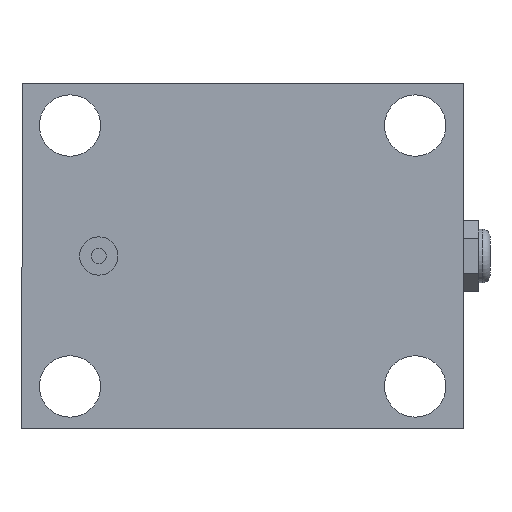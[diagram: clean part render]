
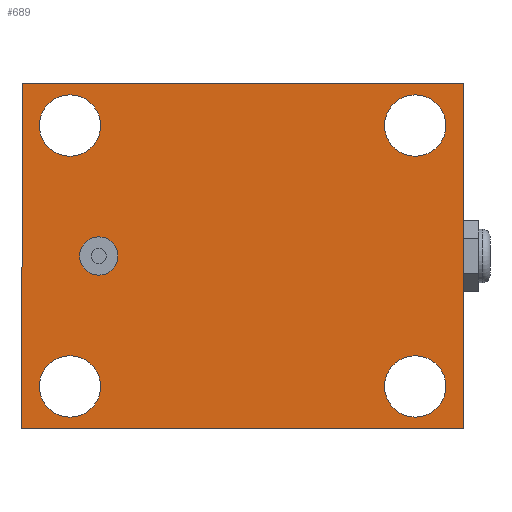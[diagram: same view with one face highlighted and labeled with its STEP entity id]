
A CAD part, front view. The second image highlights one B-rep face of the part: STEP entity #689.
In plain terms, the highlighted planar face has unit normal (0, -1, 0).
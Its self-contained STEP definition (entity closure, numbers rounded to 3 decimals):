
#23 = ORIENTED_EDGE ( 'NONE', *, *, #909, .T. ) ;
#39 = AXIS2_PLACEMENT_3D ( 'NONE', #590, #1163, #596 ) ;
#43 = DIRECTION ( 'NONE',  ( 1., 0., 0. ) ) ;
#44 = LINE ( 'NONE', #623, #1220 ) ;
#54 = EDGE_CURVE ( 'NONE', #730, #512, #561, .T. ) ;
#58 = CIRCLE ( 'NONE', #1169, 5. ) ;
#60 = EDGE_CURVE ( 'NONE', #618, #680, #1393, .T. ) ;
#66 = VERTEX_POINT ( 'NONE', #510 ) ;
#78 = CARTESIAN_POINT ( 'NONE',  ( -45., 0., -42. ) ) ;
#91 = AXIS2_PLACEMENT_3D ( 'NONE', #993, #1013, #667 ) ;
#111 = DIRECTION ( 'NONE',  ( 0., 0., 1. ) ) ;
#115 = EDGE_CURVE ( 'NONE', #922, #723, #918, .T. ) ;
#142 = VERTEX_POINT ( 'NONE', #948 ) ;
#147 = AXIS2_PLACEMENT_3D ( 'NONE', #450, #1024, #111 ) ;
#174 = FACE_OUTER_BOUND ( 'NONE', #756, .T. ) ;
#193 = EDGE_CURVE ( 'NONE', #962, #1290, #1085, .T. ) ;
#243 = EDGE_CURVE ( 'NONE', #142, #687, #1246, .T. ) ;
#257 = DIRECTION ( 'NONE',  ( 0., 0., 1. ) ) ;
#259 = EDGE_CURVE ( 'NONE', #1446, #66, #769, .T. ) ;
#281 = CARTESIAN_POINT ( 'NONE',  ( -37.5, 0., 5. ) ) ;
#332 = EDGE_CURVE ( 'NONE', #512, #730, #747, .T. ) ;
#344 = ORIENTED_EDGE ( 'NONE', *, *, #60, .F. ) ;
#348 = ORIENTED_EDGE ( 'NONE', *, *, #673, .T. ) ;
#353 = CARTESIAN_POINT ( 'NONE',  ( -45., 0., 26. ) ) ;
#363 = DIRECTION ( 'NONE',  ( 0., 1., 0. ) ) ;
#376 = DIRECTION ( 'NONE',  ( 0., 1., 0. ) ) ;
#389 = CARTESIAN_POINT ( 'NONE',  ( -45., 0., -34. ) ) ;
#405 = DIRECTION ( 'NONE',  ( 0., 0., -1. ) ) ;
#410 = VECTOR ( 'NONE', #43, 1000. ) ;
#426 = VECTOR ( 'NONE', #529, 1000. ) ;
#439 = AXIS2_PLACEMENT_3D ( 'NONE', #389, #853, #722 ) ;
#445 = EDGE_CURVE ( 'NONE', #643, #1230, #556, .T. ) ;
#450 = CARTESIAN_POINT ( 'NONE',  ( -45., 0., 34. ) ) ;
#473 = CIRCLE ( 'NONE', #1261, 8. ) ;
#474 = CARTESIAN_POINT ( 'NONE',  ( 45., 0., -34. ) ) ;
#482 = EDGE_LOOP ( 'NONE', ( #1399, #344 ) ) ;
#490 = DIRECTION ( 'NONE',  ( 0., 0., -1. ) ) ;
#495 = EDGE_LOOP ( 'NONE', ( #1053, #1167 ) ) ;
#497 = DIRECTION ( 'NONE',  ( 0., 0., 1. ) ) ;
#501 = ORIENTED_EDGE ( 'NONE', *, *, #259, .T. ) ;
#510 = CARTESIAN_POINT ( 'NONE',  ( 45., 0., -26. ) ) ;
#512 = VERTEX_POINT ( 'NONE', #1451 ) ;
#514 = AXIS2_PLACEMENT_3D ( 'NONE', #1294, #376, #497 ) ;
#515 = DIRECTION ( 'NONE',  ( 0., 0., 1. ) ) ;
#529 = DIRECTION ( 'NONE',  ( 0., 0., 1. ) ) ;
#531 = FACE_BOUND ( 'NONE', #495, .T. ) ;
#533 = EDGE_LOOP ( 'NONE', ( #348, #501 ) ) ;
#538 = CARTESIAN_POINT ( 'NONE',  ( 45., 0., 42. ) ) ;
#556 = CIRCLE ( 'NONE', #1392, 8. ) ;
#561 = CIRCLE ( 'NONE', #514, 8. ) ;
#565 = CARTESIAN_POINT ( 'NONE',  ( -57.5, 0., -45. ) ) ;
#584 = CARTESIAN_POINT ( 'NONE',  ( 45., 0., -42. ) ) ;
#590 = CARTESIAN_POINT ( 'NONE',  ( 0., 0., 0. ) ) ;
#596 = DIRECTION ( 'NONE',  ( 0., 0., 1. ) ) ;
#602 = ORIENTED_EDGE ( 'NONE', *, *, #745, .F. ) ;
#607 = CARTESIAN_POINT ( 'NONE',  ( -57.5, 0., 45. ) ) ;
#618 = VERTEX_POINT ( 'NONE', #281 ) ;
#623 = CARTESIAN_POINT ( 'NONE',  ( -57.5, 0., -45. ) ) ;
#643 = VERTEX_POINT ( 'NONE', #353 ) ;
#667 = DIRECTION ( 'NONE',  ( 0., 0., 1. ) ) ;
#673 = EDGE_CURVE ( 'NONE', #66, #1446, #473, .T. ) ;
#680 = VERTEX_POINT ( 'NONE', #1153 ) ;
#683 = LINE ( 'NONE', #607, #410 ) ;
#687 = VERTEX_POINT ( 'NONE', #699 ) ;
#689 = ADVANCED_FACE ( 'NONE', ( #721, #737, #531, #1287, #954, #174 ), #929, .F. ) ;
#699 = CARTESIAN_POINT ( 'NONE',  ( 57.5, 0., -45. ) ) ;
#721 = FACE_BOUND ( 'NONE', #482, .T. ) ;
#722 = DIRECTION ( 'NONE',  ( 0., 0., 1. ) ) ;
#723 = VERTEX_POINT ( 'NONE', #78 ) ;
#730 = VERTEX_POINT ( 'NONE', #538 ) ;
#737 = FACE_BOUND ( 'NONE', #533, .T. ) ;
#745 = EDGE_CURVE ( 'NONE', #687, #962, #44, .T. ) ;
#747 = CIRCLE ( 'NONE', #91, 8. ) ;
#756 = EDGE_LOOP ( 'NONE', ( #1136, #1370, #1354, #602 ) ) ;
#766 = CARTESIAN_POINT ( 'NONE',  ( -57.5, 0., 45. ) ) ;
#769 = CIRCLE ( 'NONE', #1226, 8. ) ;
#824 = EDGE_CURVE ( 'NONE', #723, #922, #1014, .T. ) ;
#834 = AXIS2_PLACEMENT_3D ( 'NONE', #901, #997, #1012 ) ;
#839 = CARTESIAN_POINT ( 'NONE',  ( -57.5, 0., -45. ) ) ;
#847 = CARTESIAN_POINT ( 'NONE',  ( -37.5, 0., 0. ) ) ;
#853 = DIRECTION ( 'NONE',  ( 0., 1., 0. ) ) ;
#901 = CARTESIAN_POINT ( 'NONE',  ( -45., 0., -34. ) ) ;
#909 = EDGE_CURVE ( 'NONE', #1230, #643, #965, .T. ) ;
#918 = CIRCLE ( 'NONE', #439, 8. ) ;
#922 = VERTEX_POINT ( 'NONE', #1255 ) ;
#929 = PLANE ( 'NONE',  #39 ) ;
#948 = CARTESIAN_POINT ( 'NONE',  ( 57.5, 0., 45. ) ) ;
#954 = FACE_BOUND ( 'NONE', #1293, .T. ) ;
#960 = CARTESIAN_POINT ( 'NONE',  ( -45., 0., 42. ) ) ;
#962 = VERTEX_POINT ( 'NONE', #565 ) ;
#965 = CIRCLE ( 'NONE', #147, 8. ) ;
#993 = CARTESIAN_POINT ( 'NONE',  ( 45., 0., 34. ) ) ;
#994 = ORIENTED_EDGE ( 'NONE', *, *, #824, .T. ) ;
#997 = DIRECTION ( 'NONE',  ( 0., 1., 0. ) ) ;
#1012 = DIRECTION ( 'NONE',  ( 0., 0., 1. ) ) ;
#1013 = DIRECTION ( 'NONE',  ( 0., 1., 0. ) ) ;
#1014 = CIRCLE ( 'NONE', #834, 8. ) ;
#1024 = DIRECTION ( 'NONE',  ( 0., 1., 0. ) ) ;
#1031 = EDGE_LOOP ( 'NONE', ( #23, #1321 ) ) ;
#1035 = ORIENTED_EDGE ( 'NONE', *, *, #115, .T. ) ;
#1053 = ORIENTED_EDGE ( 'NONE', *, *, #54, .T. ) ;
#1060 = DIRECTION ( 'NONE',  ( 0., -1., 0. ) ) ;
#1071 = DIRECTION ( 'NONE',  ( 0., 0., -1. ) ) ;
#1085 = LINE ( 'NONE', #839, #426 ) ;
#1094 = DIRECTION ( 'NONE',  ( -1., 0., 0. ) ) ;
#1125 = VECTOR ( 'NONE', #405, 1000. ) ;
#1133 = EDGE_CURVE ( 'NONE', #1290, #142, #683, .T. ) ;
#1136 = ORIENTED_EDGE ( 'NONE', *, *, #243, .F. ) ;
#1139 = CARTESIAN_POINT ( 'NONE',  ( -45., 0., 34. ) ) ;
#1153 = CARTESIAN_POINT ( 'NONE',  ( -37.5, 0., -5. ) ) ;
#1159 = DIRECTION ( 'NONE',  ( 0., -1., 0. ) ) ;
#1163 = DIRECTION ( 'NONE',  ( 0., 1., 0. ) ) ;
#1167 = ORIENTED_EDGE ( 'NONE', *, *, #332, .T. ) ;
#1169 = AXIS2_PLACEMENT_3D ( 'NONE', #1279, #1159, #490 ) ;
#1175 = AXIS2_PLACEMENT_3D ( 'NONE', #847, #1060, #1071 ) ;
#1193 = DIRECTION ( 'NONE',  ( 0., 1., 0. ) ) ;
#1220 = VECTOR ( 'NONE', #1094, 1000. ) ;
#1226 = AXIS2_PLACEMENT_3D ( 'NONE', #1308, #1193, #515 ) ;
#1230 = VERTEX_POINT ( 'NONE', #960 ) ;
#1246 = LINE ( 'NONE', #1313, #1125 ) ;
#1254 = DIRECTION ( 'NONE',  ( 0., 1., 0. ) ) ;
#1255 = CARTESIAN_POINT ( 'NONE',  ( -45., 0., -26. ) ) ;
#1261 = AXIS2_PLACEMENT_3D ( 'NONE', #474, #363, #1270 ) ;
#1270 = DIRECTION ( 'NONE',  ( 0., 0., 1. ) ) ;
#1279 = CARTESIAN_POINT ( 'NONE',  ( -37.5, 0., 0. ) ) ;
#1287 = FACE_BOUND ( 'NONE', #1031, .T. ) ;
#1290 = VERTEX_POINT ( 'NONE', #766 ) ;
#1293 = EDGE_LOOP ( 'NONE', ( #1035, #994 ) ) ;
#1294 = CARTESIAN_POINT ( 'NONE',  ( 45., 0., 34. ) ) ;
#1308 = CARTESIAN_POINT ( 'NONE',  ( 45., 0., -34. ) ) ;
#1313 = CARTESIAN_POINT ( 'NONE',  ( 57.5, 0., -45. ) ) ;
#1321 = ORIENTED_EDGE ( 'NONE', *, *, #445, .T. ) ;
#1354 = ORIENTED_EDGE ( 'NONE', *, *, #193, .F. ) ;
#1358 = EDGE_CURVE ( 'NONE', #680, #618, #58, .T. ) ;
#1370 = ORIENTED_EDGE ( 'NONE', *, *, #1133, .F. ) ;
#1392 = AXIS2_PLACEMENT_3D ( 'NONE', #1139, #1254, #257 ) ;
#1393 = CIRCLE ( 'NONE', #1175, 5. ) ;
#1399 = ORIENTED_EDGE ( 'NONE', *, *, #1358, .F. ) ;
#1446 = VERTEX_POINT ( 'NONE', #584 ) ;
#1451 = CARTESIAN_POINT ( 'NONE',  ( 45., 0., 26. ) ) ;
